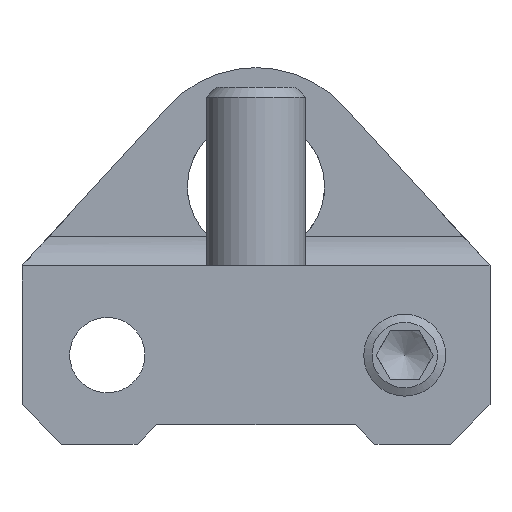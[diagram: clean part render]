
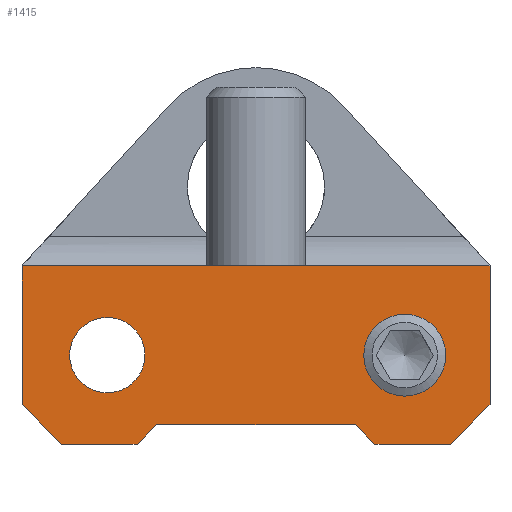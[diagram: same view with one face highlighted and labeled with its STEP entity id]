
A CAD part, front view. The second image highlights one B-rep face of the part: STEP entity #1415.
In plain terms, the highlighted planar face has unit normal (0, -1, 0).
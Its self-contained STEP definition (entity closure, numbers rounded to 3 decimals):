
#956=CARTESIAN_POINT('',(6.751,-132.0,-14.516));
#957=VERTEX_POINT('',#956);
#964=CARTESIAN_POINT('',(2.951,-132.0,-14.516));
#965=VERTEX_POINT('',#964);
#966=CARTESIAN_POINT('',(6.751,-132.0,-14.516));
#967=DIRECTION('',(-1.0,0.0,0.0));
#968=VECTOR('',#967,3.8);
#969=LINE('',#966,#968);
#970=EDGE_CURVE('',#957,#965,#969,.T.);
#988=CARTESIAN_POINT('',(1.951,-132.0,-13.516));
#989=VERTEX_POINT('',#988);
#990=CARTESIAN_POINT('',(2.951,-132.0,-14.516));
#991=DIRECTION('',(-0.707,0.0,0.707));
#992=VECTOR('',#991,1.414);
#993=LINE('',#990,#992);
#994=EDGE_CURVE('',#965,#989,#993,.T.);
#1012=CARTESIAN_POINT('',(-8.049,-132.0,-13.516));
#1013=VERTEX_POINT('',#1012);
#1014=CARTESIAN_POINT('',(1.951,-132.0,-13.516));
#1015=DIRECTION('',(-1.0,0.0,0.0));
#1016=VECTOR('',#1015,10.);
#1017=LINE('',#1014,#1016);
#1018=EDGE_CURVE('',#989,#1013,#1017,.T.);
#1058=CARTESIAN_POINT('',(-9.049,-132.0,-14.516));
#1059=VERTEX_POINT('',#1058);
#1060=CARTESIAN_POINT('',(-8.049,-132.0,-13.516));
#1061=DIRECTION('',(-0.707,0.0,-0.707));
#1062=VECTOR('',#1061,1.414);
#1063=LINE('',#1060,#1062);
#1064=EDGE_CURVE('',#1013,#1059,#1063,.T.);
#1082=CARTESIAN_POINT('',(-12.849,-132.0,-14.516));
#1083=VERTEX_POINT('',#1082);
#1084=CARTESIAN_POINT('',(-9.049,-132.0,-14.516));
#1085=DIRECTION('',(-1.0,0.0,0.0));
#1086=VECTOR('',#1085,3.8);
#1087=LINE('',#1084,#1086);
#1088=EDGE_CURVE('',#1059,#1083,#1087,.T.);
#1106=CARTESIAN_POINT('',(-14.849,-132.0,-12.516));
#1107=VERTEX_POINT('',#1106);
#1108=CARTESIAN_POINT('',(-12.849,-132.0,-14.516));
#1109=DIRECTION('',(-0.707,0.0,0.707));
#1110=VECTOR('',#1109,2.828);
#1111=LINE('',#1108,#1110);
#1112=EDGE_CURVE('',#1083,#1107,#1111,.T.);
#1271=CARTESIAN_POINT('',(8.751,-132.0,-12.516));
#1272=VERTEX_POINT('',#1271);
#1279=CARTESIAN_POINT('',(8.751,-132.0,-12.516));
#1280=DIRECTION('',(-0.707,0.0,-0.707));
#1281=VECTOR('',#1280,2.828);
#1282=LINE('',#1279,#1281);
#1283=EDGE_CURVE('',#1272,#957,#1282,.T.);
#1357=CARTESIAN_POINT('',(-3.049,-132.0,-9.704));
#1358=DIRECTION('',(0.0,1.0,0.0));
#1359=DIRECTION('',(0.0,0.0,1.0));
#1360=AXIS2_PLACEMENT_3D('',#1357,#1358,#1359);
#1361=PLANE('',#1360);
#1362=ORIENTED_EDGE('',*,*,#994,.F.);
#1363=ORIENTED_EDGE('',*,*,#970,.F.);
#1364=ORIENTED_EDGE('',*,*,#1283,.F.);
#1365=CARTESIAN_POINT('',(8.751,-132.0,-5.516));
#1366=VERTEX_POINT('',#1365);
#1367=CARTESIAN_POINT('',(8.751,-132.0,-5.516));
#1368=DIRECTION('',(0.0,0.0,-1.0));
#1369=VECTOR('',#1368,7.);
#1370=LINE('',#1367,#1369);
#1371=EDGE_CURVE('',#1366,#1272,#1370,.T.);
#1372=ORIENTED_EDGE('',*,*,#1371,.F.);
#1373=CARTESIAN_POINT('',(-14.849,-132.0,-5.516));
#1374=VERTEX_POINT('',#1373);
#1375=CARTESIAN_POINT('',(-14.849,-132.0,-5.516));
#1376=DIRECTION('',(1.0,0.0,0.0));
#1377=VECTOR('',#1376,23.6);
#1378=LINE('',#1375,#1377);
#1379=EDGE_CURVE('',#1374,#1366,#1378,.T.);
#1380=ORIENTED_EDGE('',*,*,#1379,.F.);
#1381=CARTESIAN_POINT('',(-14.849,-132.0,-12.516));
#1382=DIRECTION('',(0.0,0.0,1.0));
#1383=VECTOR('',#1382,7.0);
#1384=LINE('',#1381,#1383);
#1385=EDGE_CURVE('',#1107,#1374,#1384,.T.);
#1386=ORIENTED_EDGE('',*,*,#1385,.F.);
#1387=ORIENTED_EDGE('',*,*,#1112,.F.);
#1388=ORIENTED_EDGE('',*,*,#1088,.F.);
#1389=ORIENTED_EDGE('',*,*,#1064,.F.);
#1390=ORIENTED_EDGE('',*,*,#1018,.F.);
#1391=EDGE_LOOP('',(#1362,#1363,#1364,#1372,#1380,#1386,#1387,#1388,#1389,#1390));
#1392=FACE_OUTER_BOUND('',#1391,.T.);
#1393=CARTESIAN_POINT('',(-8.649,-132.0,-10.016));
#1394=VERTEX_POINT('',#1393);
#1395=CARTESIAN_POINT('',(-10.549,-132.0,-10.016));
#1396=DIRECTION('',(0.0,1.0,0.0));
#1397=DIRECTION('',(-1.0,0.0,0.0));
#1398=AXIS2_PLACEMENT_3D('',#1395,#1396,#1397);
#1399=CIRCLE('',#1398,1.9);
#1400=EDGE_CURVE('',#1394,#1394,#1399,.T.);
#1401=ORIENTED_EDGE('',*,*,#1400,.T.);
#1402=EDGE_LOOP('',(#1401));
#1403=FACE_BOUND('',#1402,.T.);
#1404=CARTESIAN_POINT('',(6.518,-132.0,-10.016));
#1405=VERTEX_POINT('',#1404);
#1406=CARTESIAN_POINT('',(4.451,-132.0,-10.016));
#1407=DIRECTION('',(0.0,1.0,0.0));
#1408=DIRECTION('',(1.0,0.0,0.0));
#1409=AXIS2_PLACEMENT_3D('',#1406,#1407,#1408);
#1410=CIRCLE('',#1409,2.067);
#1411=EDGE_CURVE('',#1405,#1405,#1410,.T.);
#1412=ORIENTED_EDGE('',*,*,#1411,.T.);
#1413=EDGE_LOOP('',(#1412));
#1414=FACE_BOUND('',#1413,.T.);
#1415=ADVANCED_FACE('',(#1392,#1403,#1414),#1361,.F.);
